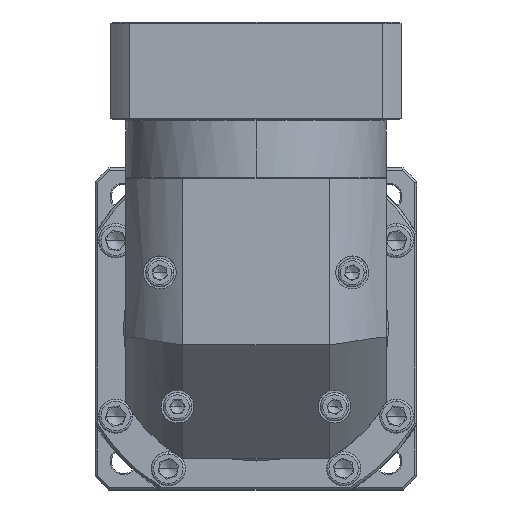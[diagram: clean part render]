
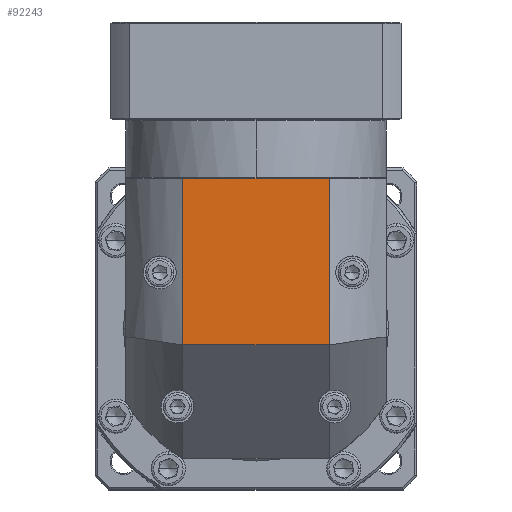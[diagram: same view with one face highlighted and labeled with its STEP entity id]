
A CAD part, top view. The second image highlights one B-rep face of the part: STEP entity #92243.
In plain terms, the highlighted planar face has unit normal (0, 0, 1).
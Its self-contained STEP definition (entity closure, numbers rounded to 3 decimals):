
#11341 = VECTOR ( 'NONE', #29425, 1000. ) ;
#16723 = CARTESIAN_POINT ( 'NONE',  ( -102.817, 111.924, 60.133 ) ) ;
#20764 = VERTEX_POINT ( 'NONE', #80768 ) ;
#20789 = VERTEX_POINT ( 'NONE', #114557 ) ;
#27459 = CARTESIAN_POINT ( 'NONE',  ( -135.216, 54.424, 60.133 ) ) ;
#29425 = DIRECTION ( 'NONE',  ( 0., -1., 0. ) ) ;
#30730 = CARTESIAN_POINT ( 'NONE',  ( -160.317, 104.424, 60.133 ) ) ;
#42052 = EDGE_LOOP ( 'NONE', ( #61215, #94178, #124360, #92375 ) ) ;
#42123 = VERTEX_POINT ( 'NONE', #59187 ) ;
#47220 = CARTESIAN_POINT ( 'NONE',  ( -135.216, 177.824, 60.133 ) ) ;
#50395 = AXIS2_PLACEMENT_3D ( 'NONE', #16723, #127600, #80231 ) ;
#52211 = CARTESIAN_POINT ( 'NONE',  ( -70.417, 54.424, 60.133 ) ) ;
#53743 = VECTOR ( 'NONE', #124323, 1000. ) ;
#57475 = EDGE_CURVE ( 'NONE', #20789, #117684, #77363, .T. ) ;
#59187 = CARTESIAN_POINT ( 'NONE',  ( -70.417, 104.424, 60.133 ) ) ;
#61215 = ORIENTED_EDGE ( 'NONE', *, *, #57475, .F. ) ;
#68468 = EDGE_CURVE ( 'NONE', #20764, #42123, #108015, .T. ) ;
#75636 = EDGE_CURVE ( 'NONE', #42123, #20789, #82046, .T. ) ;
#77363 = LINE ( 'NONE', #27459, #99419 ) ;
#80231 = DIRECTION ( 'NONE',  ( 1., 0., 0. ) ) ;
#80768 = CARTESIAN_POINT ( 'NONE',  ( -70.417, 177.824, 60.133 ) ) ;
#82046 = LINE ( 'NONE', #30730, #87097 ) ;
#87097 = VECTOR ( 'NONE', #107545, 1000. ) ;
#92243 = ADVANCED_FACE ( 'NONE', ( #98533 ), #138033, .F. ) ;
#92375 = ORIENTED_EDGE ( 'NONE', *, *, #124764, .F. ) ;
#94178 = ORIENTED_EDGE ( 'NONE', *, *, #75636, .F. ) ;
#98533 = FACE_OUTER_BOUND ( 'NONE', #42052, .T. ) ;
#99419 = VECTOR ( 'NONE', #137356, 1000. ) ;
#107545 = DIRECTION ( 'NONE',  ( -1., 0., 0. ) ) ;
#108015 = LINE ( 'NONE', #52211, #11341 ) ;
#111414 = LINE ( 'NONE', #124788, #53743 ) ;
#114557 = CARTESIAN_POINT ( 'NONE',  ( -135.216, 104.424, 60.133 ) ) ;
#117684 = VERTEX_POINT ( 'NONE', #47220 ) ;
#124323 = DIRECTION ( 'NONE',  ( 1., 0., 0. ) ) ;
#124360 = ORIENTED_EDGE ( 'NONE', *, *, #68468, .F. ) ;
#124764 = EDGE_CURVE ( 'NONE', #117684, #20764, #111414, .T. ) ;
#124788 = CARTESIAN_POINT ( 'NONE',  ( -160.317, 177.824, 60.133 ) ) ;
#127600 = DIRECTION ( 'NONE',  ( 0., 0., -1. ) ) ;
#137356 = DIRECTION ( 'NONE',  ( 0., 1., 0. ) ) ;
#138033 = PLANE ( 'NONE',  #50395 ) ;
